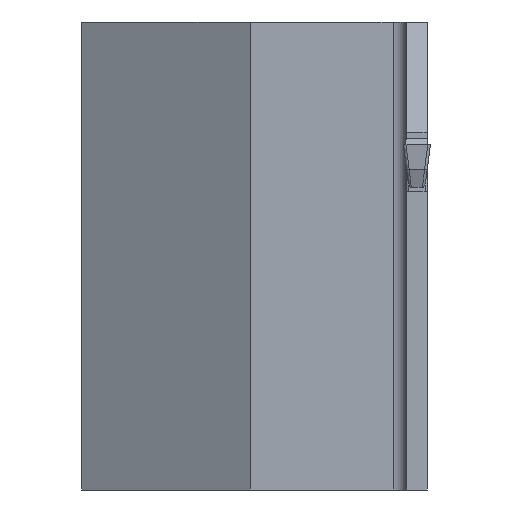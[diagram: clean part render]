
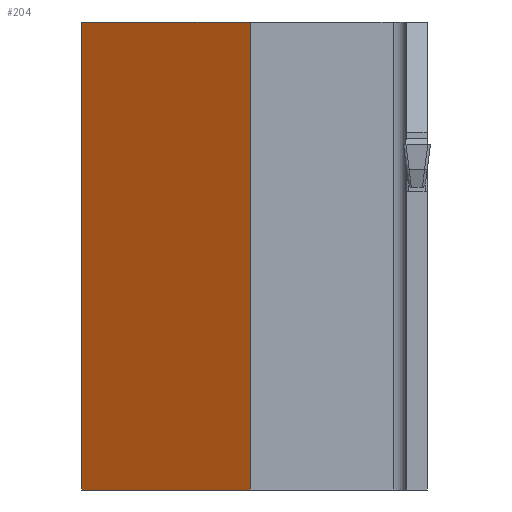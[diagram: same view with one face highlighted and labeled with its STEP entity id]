
A CAD part, left-side view. The second image highlights one B-rep face of the part: STEP entity #204.
In plain terms, the highlighted planar face has unit normal (-0.866, 0.5, 0).
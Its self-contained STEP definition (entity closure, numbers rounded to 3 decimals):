
#204=ADVANCED_FACE('',(#312),#252,.T.);
#252=PLANE('',#1256);
#312=FACE_OUTER_BOUND('',#374,.T.);
#374=EDGE_LOOP('',(#630,#631,#632,#633));
#630=ORIENTED_EDGE('',*,*,#906,.F.);
#631=ORIENTED_EDGE('',*,*,#925,.F.);
#632=ORIENTED_EDGE('',*,*,#931,.T.);
#633=ORIENTED_EDGE('',*,*,#932,.T.);
#770=VERTEX_POINT('',#1873);
#771=VERTEX_POINT('',#1875);
#788=VERTEX_POINT('',#1913);
#792=VERTEX_POINT('',#1926);
#906=EDGE_CURVE('',#770,#771,#1026,.T.);
#925=EDGE_CURVE('',#788,#770,#1043,.T.);
#931=EDGE_CURVE('',#788,#792,#1048,.T.);
#932=EDGE_CURVE('',#792,#771,#1049,.T.);
#1026=LINE('',#1874,#1142);
#1043=LINE('',#1914,#1159);
#1048=LINE('',#1925,#1164);
#1049=LINE('',#1927,#1165);
#1142=VECTOR('',#1477,1.);
#1159=VECTOR('',#1504,1.);
#1164=VECTOR('',#1515,1.);
#1165=VECTOR('',#1516,1.);
#1256=AXIS2_PLACEMENT_3D('',#1928,#1517,#1518);
#1477=DIRECTION('',(-0.5,-0.866,0.));
#1504=DIRECTION('',(0.,0.,1.));
#1515=DIRECTION('',(-0.5,-0.866,0.));
#1516=DIRECTION('',(0.,0.,1.));
#1517=DIRECTION('',(-0.866,0.5,0.));
#1518=DIRECTION('',(-0.5,-0.866,0.));
#1873=CARTESIAN_POINT('',(22.659,24.65,9.));
#1874=CARTESIAN_POINT('',(22.659,24.65,9.));
#1875=CARTESIAN_POINT('',(15.5,12.25,9.));
#1913=CARTESIAN_POINT('',(22.659,24.65,-25.4));
#1914=CARTESIAN_POINT('',(22.659,24.65,-25.4));
#1925=CARTESIAN_POINT('',(22.659,24.65,-25.4));
#1926=CARTESIAN_POINT('',(15.5,12.25,-25.4));
#1927=CARTESIAN_POINT('',(15.5,12.25,-25.4));
#1928=CARTESIAN_POINT('',(22.659,24.65,-25.4));
